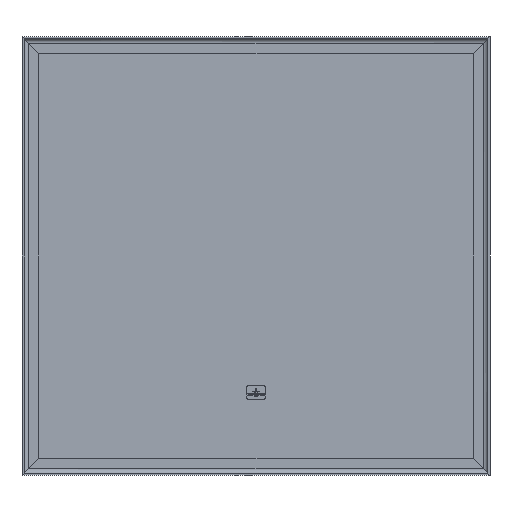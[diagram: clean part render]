
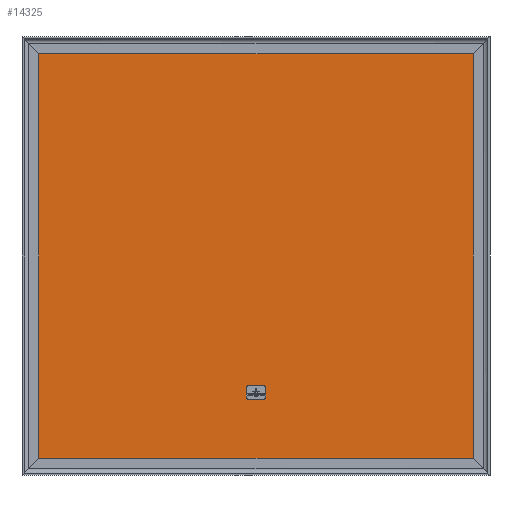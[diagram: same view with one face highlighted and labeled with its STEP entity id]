
A CAD part, front view. The second image highlights one B-rep face of the part: STEP entity #14325.
In plain terms, the highlighted planar face has unit normal (0, -1, 0).
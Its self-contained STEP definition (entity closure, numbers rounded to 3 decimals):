
#131=FACE_BOUND('',#2291,.T.);
#729=CIRCLE('',#15439,4.714);
#731=CIRCLE('',#15443,4.714);
#733=CIRCLE('',#15447,4.714);
#735=CIRCLE('',#15451,4.714);
#1453=FACE_OUTER_BOUND('',#2290,.T.);
#2290=EDGE_LOOP('',(#11888,#11889,#11890,#11891));
#2291=EDGE_LOOP('',(#11892,#11893,#11894,#11895,#11896,#11897,#11898,#11899));
#3810=LINE('',#22982,#5385);
#3814=LINE('',#22994,#5389);
#3818=LINE('',#23006,#5393);
#3822=LINE('',#23017,#5397);
#3824=LINE('',#23023,#5399);
#3825=LINE('',#23025,#5400);
#3826=LINE('',#23027,#5401);
#3827=LINE('',#23028,#5402);
#5385=VECTOR('',#18687,15.086);
#5389=VECTOR('',#18699,23.571);
#5393=VECTOR('',#18711,15.086);
#5397=VECTOR('',#18723,23.571);
#5399=VECTOR('',#18729,742.);
#5400=VECTOR('',#18730,691.);
#5401=VECTOR('',#18731,742.);
#5402=VECTOR('',#18732,691.);
#6769=VERTEX_POINT('',#22972);
#6770=VERTEX_POINT('',#22973);
#6773=VERTEX_POINT('',#22981);
#6775=VERTEX_POINT('',#22987);
#6777=VERTEX_POINT('',#22993);
#6779=VERTEX_POINT('',#22999);
#6781=VERTEX_POINT('',#23005);
#6783=VERTEX_POINT('',#23011);
#6785=VERTEX_POINT('',#23021);
#6786=VERTEX_POINT('',#23022);
#6787=VERTEX_POINT('',#23024);
#6788=VERTEX_POINT('',#23026);
#8616=EDGE_CURVE('',#6769,#6770,#729,.T.);
#8620=EDGE_CURVE('',#6773,#6769,#3810,.T.);
#8623=EDGE_CURVE('',#6775,#6773,#731,.T.);
#8626=EDGE_CURVE('',#6777,#6775,#3814,.T.);
#8629=EDGE_CURVE('',#6779,#6777,#733,.T.);
#8632=EDGE_CURVE('',#6781,#6779,#3818,.T.);
#8635=EDGE_CURVE('',#6783,#6781,#735,.T.);
#8638=EDGE_CURVE('',#6770,#6783,#3822,.T.);
#8640=EDGE_CURVE('',#6785,#6786,#3824,.T.);
#8641=EDGE_CURVE('',#6787,#6785,#3825,.T.);
#8642=EDGE_CURVE('',#6788,#6787,#3826,.T.);
#8643=EDGE_CURVE('',#6786,#6788,#3827,.T.);
#11888=ORIENTED_EDGE('',*,*,#8640,.F.);
#11889=ORIENTED_EDGE('',*,*,#8641,.F.);
#11890=ORIENTED_EDGE('',*,*,#8642,.F.);
#11891=ORIENTED_EDGE('',*,*,#8643,.F.);
#11892=ORIENTED_EDGE('',*,*,#8616,.T.);
#11893=ORIENTED_EDGE('',*,*,#8638,.T.);
#11894=ORIENTED_EDGE('',*,*,#8635,.T.);
#11895=ORIENTED_EDGE('',*,*,#8632,.T.);
#11896=ORIENTED_EDGE('',*,*,#8629,.T.);
#11897=ORIENTED_EDGE('',*,*,#8626,.T.);
#11898=ORIENTED_EDGE('',*,*,#8623,.T.);
#11899=ORIENTED_EDGE('',*,*,#8620,.T.);
#13583=PLANE('',#15455);
#14325=ADVANCED_FACE('',(#1453,#131),#13583,.F.);
#15439=AXIS2_PLACEMENT_3D('',#22974,#18679,#18680);
#15443=AXIS2_PLACEMENT_3D('',#22988,#18692,#18693);
#15447=AXIS2_PLACEMENT_3D('',#23000,#18704,#18705);
#15451=AXIS2_PLACEMENT_3D('',#23012,#18716,#18717);
#15455=AXIS2_PLACEMENT_3D('',#23020,#18727,#18728);
#18679=DIRECTION('center_axis',(0.,1.,0.));
#18680=DIRECTION('ref_axis',(0.,0.,1.));
#18687=DIRECTION('',(0.,0.,1.));
#18692=DIRECTION('center_axis',(0.,1.,0.));
#18693=DIRECTION('ref_axis',(-1.,0.,0.));
#18699=DIRECTION('',(-1.,0.,0.));
#18704=DIRECTION('center_axis',(0.,1.,0.));
#18705=DIRECTION('ref_axis',(0.,0.,-1.));
#18711=DIRECTION('',(0.,0.,-1.));
#18716=DIRECTION('center_axis',(0.,1.,0.));
#18717=DIRECTION('ref_axis',(1.,0.,0.));
#18723=DIRECTION('',(1.,0.,0.));
#18727=DIRECTION('center_axis',(0.,1.,0.));
#18728=DIRECTION('ref_axis',(-1.,0.,0.));
#18729=DIRECTION('',(1.,0.,0.));
#18730=DIRECTION('',(0.,0.,1.));
#18731=DIRECTION('',(-1.,0.,0.));
#18732=DIRECTION('',(0.,0.,-1.));
#22972=CARTESIAN_POINT('',(-16.5,5.75,148.8));
#22973=CARTESIAN_POINT('',(-11.786,5.75,153.514));
#22974=CARTESIAN_POINT('Origin',(-11.786,5.75,148.8));
#22981=CARTESIAN_POINT('',(-16.5,5.75,133.714));
#22982=CARTESIAN_POINT('',(-16.5,5.75,254.357));
#22987=CARTESIAN_POINT('',(-11.786,5.75,129.));
#22988=CARTESIAN_POINT('Origin',(-11.786,5.75,133.714));
#22993=CARTESIAN_POINT('',(11.786,5.75,129.));
#22994=CARTESIAN_POINT('',(5.893,5.75,129.));
#22999=CARTESIAN_POINT('',(16.5,5.75,133.714));
#23000=CARTESIAN_POINT('Origin',(11.786,5.75,133.714));
#23005=CARTESIAN_POINT('',(16.5,5.75,148.8));
#23006=CARTESIAN_POINT('',(16.5,5.75,261.9));
#23011=CARTESIAN_POINT('',(11.786,5.75,153.514));
#23012=CARTESIAN_POINT('Origin',(11.786,5.75,148.8));
#23017=CARTESIAN_POINT('',(-5.893,5.75,153.514));
#23020=CARTESIAN_POINT('Origin',(0.,5.75,
375.));
#23021=CARTESIAN_POINT('',(-371.,5.75,720.5));
#23022=CARTESIAN_POINT('',(371.,5.75,720.5));
#23023=CARTESIAN_POINT('',(-185.75,5.75,720.5));
#23024=CARTESIAN_POINT('',(-371.,5.75,29.5));
#23025=CARTESIAN_POINT('',(-371.,5.75,202.));
#23026=CARTESIAN_POINT('',(371.,5.75,29.5));
#23027=CARTESIAN_POINT('',(185.75,5.75,29.5));
#23028=CARTESIAN_POINT('',(371.,5.75,548.));
